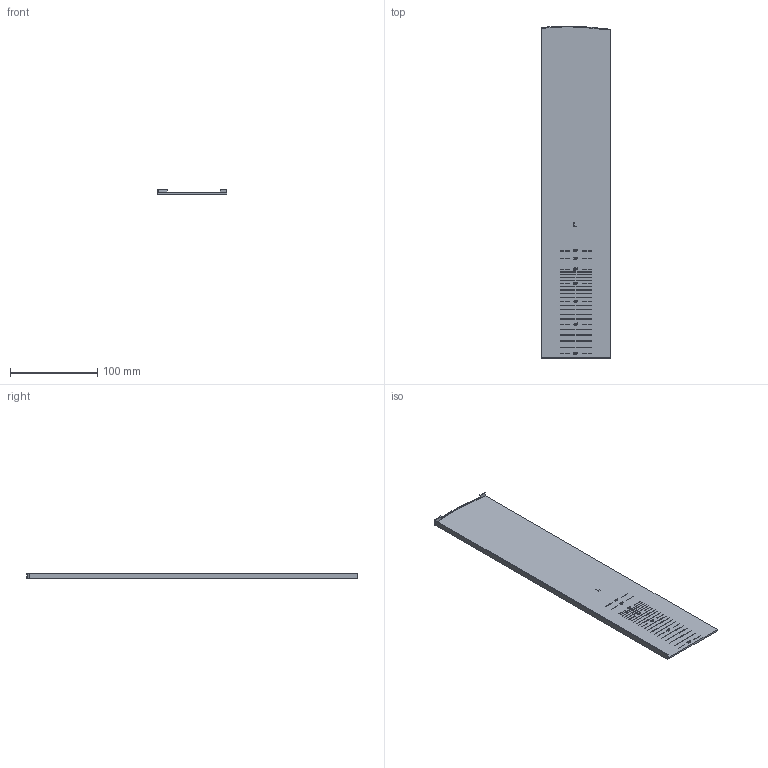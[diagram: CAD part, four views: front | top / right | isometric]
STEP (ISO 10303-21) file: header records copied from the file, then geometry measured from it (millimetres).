
FILE_DESCRIPTION(/* description */ ('TF-3621 endcap left with covercap for stairway, aluminum mill finish'),/* implementation_level */ '2;1');
FILE_NAME(/* name */ '1036214111x.stp',/* time_stamp */ '2025-11-13T10:32:34+01:00',/* author */ ('nethmini'),/* organization */ (''),/* preprocessor_version */ 'ST-DEVELOPER v19.2',/* originating_system */ 'Autodesk Inventor 2024',/* authorisation */ '');
FILE_SCHEMA (('AUTOMOTIVE_DESIGN { 1 0 10303 214 3 1 1 }'));
Length unit declared in the file: millimetre
Products named in the file (1): 10362141110
Bounding box: 80 x 379.67 x 6 mm (x, y, z)
Volume: 62218.2 mm3; surface area: 65771.6 mm2
Topology: 1 solids, 1 shells, 512 faces, 1331 edges, 886 vertices
Faces by surface type: plane 290, bspline 216, cylinder 6
Entity records: 17371 total; most frequent: CARTESIAN_POINT 6183, ORIENTED_EDGE 2662, DIRECTION 1505, EDGE_CURVE 1331, LINE 887, VECTOR 887, VERTEX_POINT 886, EDGE_LOOP 577
